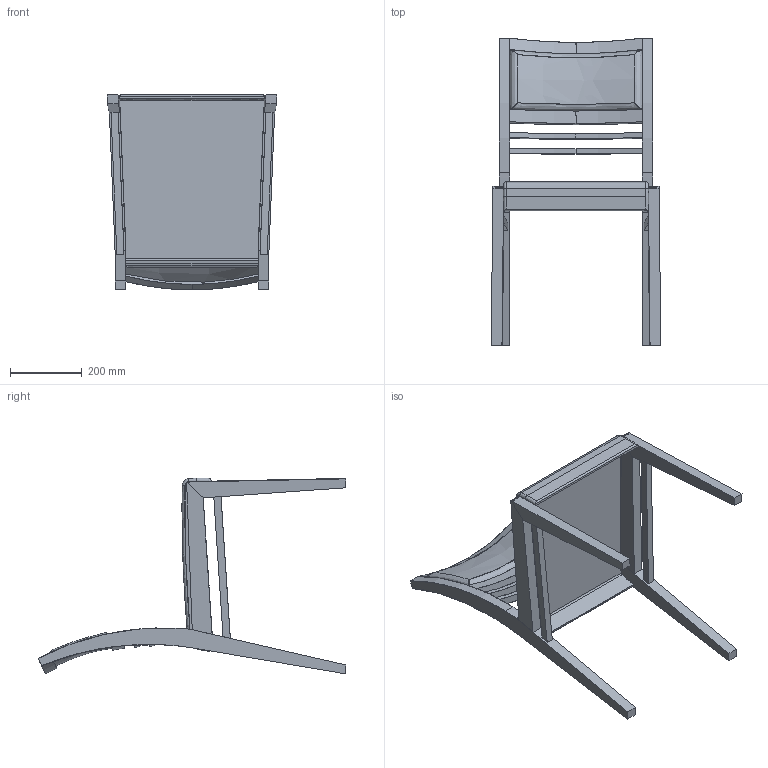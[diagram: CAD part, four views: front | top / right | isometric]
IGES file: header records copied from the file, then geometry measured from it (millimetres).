
Start section: SolidWorks IGES file using analytic representation for surfaces
Global section: file name: C:\Users\Adao\Documents\Trab Adao\Desenho técnico PRODUÇÃO\J M S\CASSIS\Linha CASSIS (sat)\CADEIRA M-11.IGS; native system: SolidWorks 2012; preprocessor: SolidWorks 2012; author: Adao; date: 121027.101209; units: millimetre
Bounding box: 473.63 x 860.16 x 546.85 mm (x, y, z)
Surface area: 1295219.3 mm2 (no closed solid volume)
Topology: 0 solids, 0 shells, 130 faces, 1477 edges, 1473 vertices
Faces by surface type: bspline 90, revolution 40
